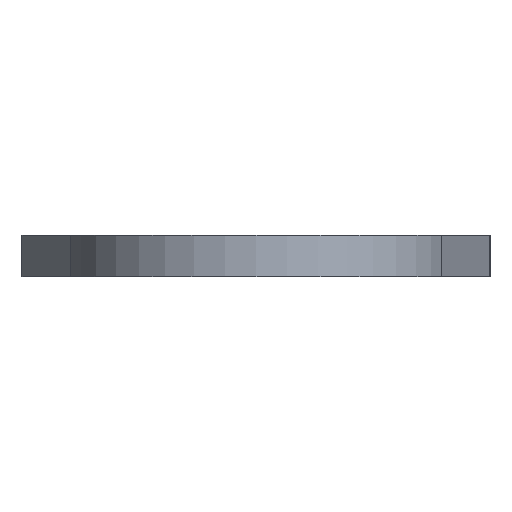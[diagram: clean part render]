
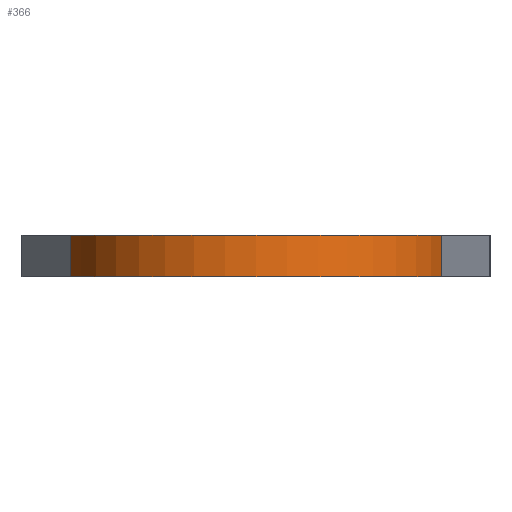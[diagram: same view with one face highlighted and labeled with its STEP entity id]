
A CAD part, left-side view. The second image highlights one B-rep face of the part: STEP entity #366.
In plain terms, the highlighted cylindrical face has radius 10.415 mm (diameter 20.831 mm), a partial arc.
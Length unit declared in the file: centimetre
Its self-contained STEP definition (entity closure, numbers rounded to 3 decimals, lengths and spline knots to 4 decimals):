
#34=CYLINDRICAL_SURFACE('',#392,1.0416);
#46=CIRCLE('',#389,1.0416);
#48=CIRCLE('',#393,1.0416);
#55=VERTEX_POINT('',#507);
#57=VERTEX_POINT('',#510);
#68=VERTEX_POINT('',#534);
#75=VERTEX_POINT('',#549);
#90=VECTOR('',#417,1.);
#104=VECTOR('',#447,1.);
#126=LINE('',#509,#90);
#140=LINE('',#551,#104);
#162=EDGE_CURVE('',#57,#55,#126,.T.);
#174=EDGE_CURVE('',#57,#68,#46,.T.);
#183=EDGE_CURVE('',#68,#75,#140,.T.);
#184=EDGE_CURVE('',#75,#55,#48,.T.);
#236=ORIENTED_EDGE('',*,*,#184,.F.);
#237=ORIENTED_EDGE('',*,*,#183,.F.);
#238=ORIENTED_EDGE('',*,*,#174,.F.);
#239=ORIENTED_EDGE('',*,*,#162,.T.);
#317=EDGE_LOOP('',(#236,#237,#238,#239));
#343=FACE_BOUND('',#317,.T.);
#366=ADVANCED_FACE('',(#343),#34,.T.);
#389=AXIS2_PLACEMENT_3D('',#533,#435,#436);
#392=AXIS2_PLACEMENT_3D('',#552,#448,#449);
#393=AXIS2_PLACEMENT_3D('',#553,#450,#451);
#417=DIRECTION('',(0.,0.,1.));
#435=DIRECTION('',(0.,0.,-1.));
#436=DIRECTION('',(-1.042,0.,0.));
#447=DIRECTION('',(0.,0.,1.));
#448=DIRECTION('',(0.,0.,1.));
#449=DIRECTION('',(-1.042,0.,0.));
#450=DIRECTION('',(0.,0.,1.));
#451=DIRECTION('',(-1.042,0.,0.));
#507=CARTESIAN_POINT('',(-44.2697,-1.0075,0.2261));
#509=CARTESIAN_POINT('',(-44.2697,-1.0075,0.));
#510=CARTESIAN_POINT('',(-44.2697,-1.0075,0.));
#533=CARTESIAN_POINT('',(-44.0053,0.,0.));
#534=CARTESIAN_POINT('',(-44.2697,1.0075,0.));
#549=CARTESIAN_POINT('',(-44.2697,1.0075,0.2261));
#551=CARTESIAN_POINT('',(-44.2697,1.0075,0.));
#552=CARTESIAN_POINT('',(-44.0053,0.,0.));
#553=CARTESIAN_POINT('',(-44.0053,0.,0.2261));
